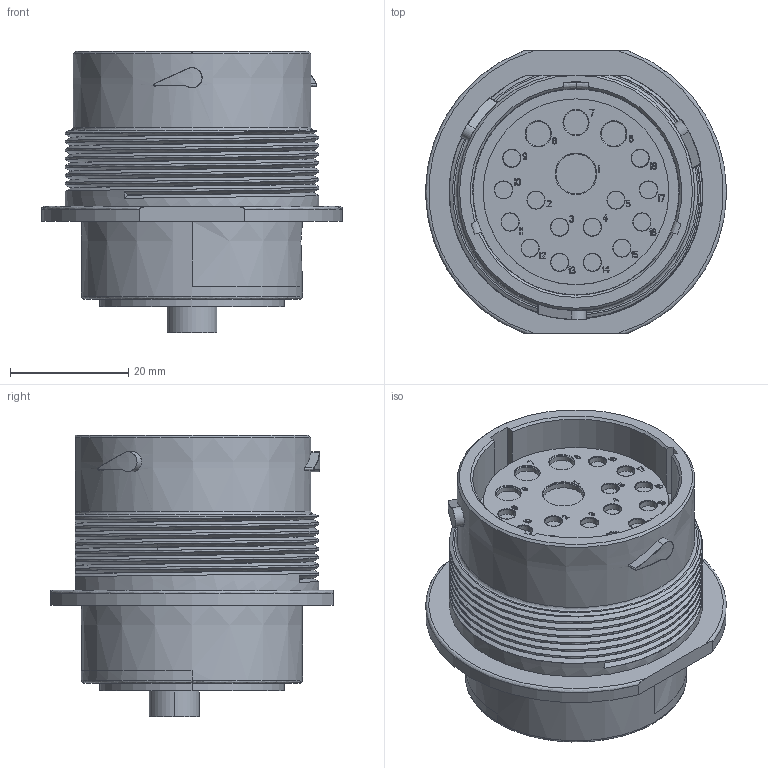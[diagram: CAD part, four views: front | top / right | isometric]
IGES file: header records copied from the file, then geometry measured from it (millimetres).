
Start section:  PTC IGES file: c-hdp24-24-18sn-99-3d.igs
Global section: file name: c-hdp24-24-18sn-99-3d.igs; native system: Pro/ENGINEER by Parametric Technology Corporation; preprocessor: 2011490; author: workeradm; organization: Unknown; units: millimetre
Bounding box: 50.8 x 47.62 x 47.47 mm (x, y, z)
Surface area: 13943.7 mm2 (no closed solid volume)
Topology: 0 solids, 0 shells, 1066 faces, 5702 edges, 5702 vertices
Faces by surface type: bspline 866, revolution 200
